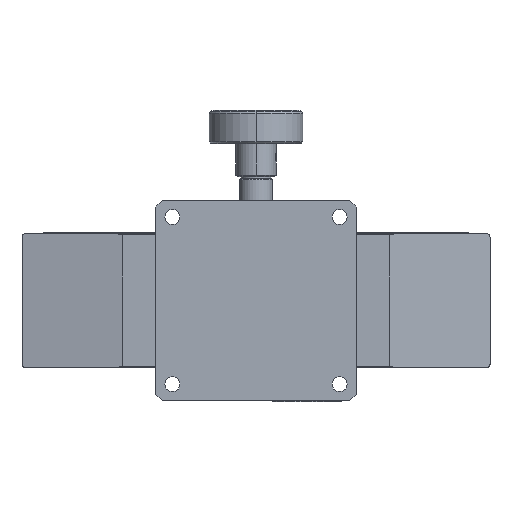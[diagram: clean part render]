
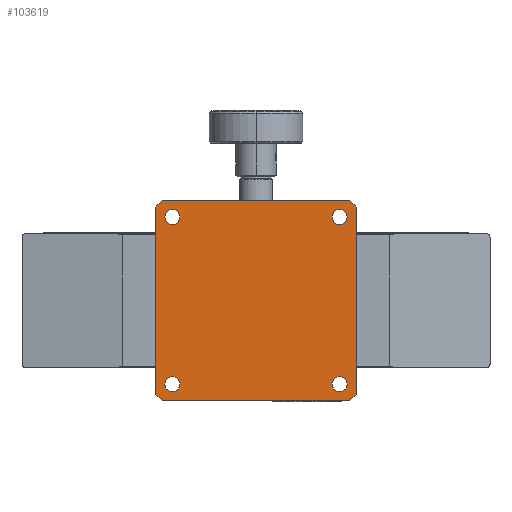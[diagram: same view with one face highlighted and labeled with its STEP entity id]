
A CAD part, front view. The second image highlights one B-rep face of the part: STEP entity #103619.
In plain terms, the highlighted planar face has unit normal (0, -1, 0).
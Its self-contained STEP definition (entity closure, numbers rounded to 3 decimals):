
#1793 = CARTESIAN_POINT ( 'NONE',  ( 25., 0., -25. ) ) ;
#3229 = DIRECTION ( 'NONE',  ( 0., 1., 0. ) ) ;
#3331 = VERTEX_POINT ( 'NONE', #116008 ) ;
#4686 = CARTESIAN_POINT ( 'NONE',  ( -28., 0., 30. ) ) ;
#4880 = CIRCLE ( 'NONE', #121013, 2.25 ) ;
#5868 = DIRECTION ( 'NONE',  ( 1., 0., 0. ) ) ;
#7305 = EDGE_CURVE ( 'NONE', #120697, #127490, #4880, .T. ) ;
#9512 = AXIS2_PLACEMENT_3D ( 'NONE', #80239, #20432, #90218 ) ;
#9862 = DIRECTION ( 'NONE',  ( 1., 0., 0. ) ) ;
#9890 = DIRECTION ( 'NONE',  ( 0., 1., 0. ) ) ;
#9987 = CARTESIAN_POINT ( 'NONE',  ( 25., 0., -25. ) ) ;
#10244 = FACE_BOUND ( 'NONE', #29146, .T. ) ;
#10717 = CARTESIAN_POINT ( 'NONE',  ( -29., 0., 29. ) ) ;
#11239 = ORIENTED_EDGE ( 'NONE', *, *, #55968, .T. ) ;
#11756 = DIRECTION ( 'NONE',  ( 1., 0., 0. ) ) ;
#12779 = LINE ( 'NONE', #10717, #62686 ) ;
#13402 = ORIENTED_EDGE ( 'NONE', *, *, #66285, .T. ) ;
#15673 = EDGE_CURVE ( 'NONE', #41049, #99760, #107922, .T. ) ;
#17608 = DIRECTION ( 'NONE',  ( 1., 0., 0. ) ) ;
#18826 = CARTESIAN_POINT ( 'NONE',  ( 30., 0., 28. ) ) ;
#19391 = CARTESIAN_POINT ( 'NONE',  ( -22.75, 0., -25. ) ) ;
#19603 = ORIENTED_EDGE ( 'NONE', *, *, #121390, .T. ) ;
#20186 = LINE ( 'NONE', #41942, #96697 ) ;
#20417 = DIRECTION ( 'NONE',  ( 0., 0., 1. ) ) ;
#20432 = DIRECTION ( 'NONE',  ( 0., 1., 0. ) ) ;
#20670 = DIRECTION ( 'NONE',  ( -0.707, 0., -0.707 ) ) ;
#23021 = CARTESIAN_POINT ( 'NONE',  ( -27.25, 0., 25. ) ) ;
#24061 = CIRCLE ( 'NONE', #116651, 2.25 ) ;
#24385 = CARTESIAN_POINT ( 'NONE',  ( 27.25, 0., -25. ) ) ;
#24410 = CIRCLE ( 'NONE', #41675, 2.25 ) ;
#24516 = EDGE_LOOP ( 'NONE', ( #40806, #11239, #85222, #58686, #75996, #122766, #47318, #67796 ) ) ;
#25113 = EDGE_LOOP ( 'NONE', ( #98017, #128564 ) ) ;
#25323 = CARTESIAN_POINT ( 'NONE',  ( 30., 0., -30. ) ) ;
#27420 = VERTEX_POINT ( 'NONE', #63055 ) ;
#28352 = VECTOR ( 'NONE', #20417, 1000. ) ;
#28378 = PLANE ( 'NONE',  #96031 ) ;
#29146 = EDGE_LOOP ( 'NONE', ( #105641, #44778 ) ) ;
#30600 = VERTEX_POINT ( 'NONE', #124438 ) ;
#31271 = LINE ( 'NONE', #87209, #107758 ) ;
#33028 = CARTESIAN_POINT ( 'NONE',  ( -25., 0., -25. ) ) ;
#33273 = CARTESIAN_POINT ( 'NONE',  ( 25., 0., 25. ) ) ;
#34469 = AXIS2_PLACEMENT_3D ( 'NONE', #62883, #3229, #72926 ) ;
#39787 = AXIS2_PLACEMENT_3D ( 'NONE', #125203, #65509, #5868 ) ;
#40216 = CARTESIAN_POINT ( 'NONE',  ( -25., 0., 25. ) ) ;
#40441 = LINE ( 'NONE', #113936, #99800 ) ;
#40806 = ORIENTED_EDGE ( 'NONE', *, *, #68318, .F. ) ;
#41049 = VERTEX_POINT ( 'NONE', #97242 ) ;
#41675 = AXIS2_PLACEMENT_3D ( 'NONE', #40216, #110057, #50219 ) ;
#41942 = CARTESIAN_POINT ( 'NONE',  ( -1., 0., 59. ) ) ;
#42401 = DIRECTION ( 'NONE',  ( 0.707, 0., 0.707 ) ) ;
#43039 = DIRECTION ( 'NONE',  ( 1., 0., 0. ) ) ;
#43186 = EDGE_LOOP ( 'NONE', ( #19603, #13402 ) ) ;
#43298 = DIRECTION ( 'NONE',  ( 1., 0., 0. ) ) ;
#44778 = ORIENTED_EDGE ( 'NONE', *, *, #98889, .T. ) ;
#45959 = ORIENTED_EDGE ( 'NONE', *, *, #60038, .T. ) ;
#47318 = ORIENTED_EDGE ( 'NONE', *, *, #114681, .F. ) ;
#48412 = DIRECTION ( 'NONE',  ( 0., -1., 0. ) ) ;
#50219 = DIRECTION ( 'NONE',  ( 1., 0., 0. ) ) ;
#53665 = AXIS2_PLACEMENT_3D ( 'NONE', #33273, #103065, #43298 ) ;
#55454 = CIRCLE ( 'NONE', #34469, 2.25 ) ;
#55968 = EDGE_CURVE ( 'NONE', #115354, #118128, #12779, .T. ) ;
#58168 = EDGE_CURVE ( 'NONE', #3331, #27420, #68676, .T. ) ;
#58686 = ORIENTED_EDGE ( 'NONE', *, *, #15673, .T. ) ;
#60038 = EDGE_CURVE ( 'NONE', #94843, #60269, #91733, .T. ) ;
#60269 = VERTEX_POINT ( 'NONE', #125378 ) ;
#62686 = VECTOR ( 'NONE', #20670, 1000. ) ;
#62883 = CARTESIAN_POINT ( 'NONE',  ( -25., 0., -25. ) ) ;
#63055 = CARTESIAN_POINT ( 'NONE',  ( 22.75, 0., 25. ) ) ;
#63352 = AXIS2_PLACEMENT_3D ( 'NONE', #33028, #102823, #43039 ) ;
#63975 = EDGE_CURVE ( 'NONE', #27420, #3331, #120610, .T. ) ;
#65509 = DIRECTION ( 'NONE',  ( 0., 1., 0. ) ) ;
#65879 = CARTESIAN_POINT ( 'NONE',  ( -28., 0., -30. ) ) ;
#66285 = EDGE_CURVE ( 'NONE', #101849, #99921, #100348, .T. ) ;
#67614 = VERTEX_POINT ( 'NONE', #74563 ) ;
#67796 = ORIENTED_EDGE ( 'NONE', *, *, #108151, .T. ) ;
#67994 = CARTESIAN_POINT ( 'NONE',  ( -22.75, 0., 25. ) ) ;
#68318 = EDGE_CURVE ( 'NONE', #115354, #30600, #126444, .T. ) ;
#68676 = CIRCLE ( 'NONE', #39787, 2.25 ) ;
#71465 = DIRECTION ( 'NONE',  ( 0., 1., 0. ) ) ;
#72668 = FACE_BOUND ( 'NONE', #43186, .T. ) ;
#72926 = DIRECTION ( 'NONE',  ( 1., 0., 0. ) ) ;
#74563 = CARTESIAN_POINT ( 'NONE',  ( 30., 0., -28. ) ) ;
#75996 = ORIENTED_EDGE ( 'NONE', *, *, #106089, .F. ) ;
#76805 = EDGE_LOOP ( 'NONE', ( #45959, #111984 ) ) ;
#79688 = VERTEX_POINT ( 'NONE', #18826 ) ;
#80239 = CARTESIAN_POINT ( 'NONE',  ( -25., 0., 25. ) ) ;
#84612 = LINE ( 'NONE', #100262, #28352 ) ;
#85222 = ORIENTED_EDGE ( 'NONE', *, *, #91268, .F. ) ;
#86644 = FACE_OUTER_BOUND ( 'NONE', #24516, .T. ) ;
#86692 = DIRECTION ( 'NONE',  ( 0.707, 0., -0.707 ) ) ;
#86716 = CARTESIAN_POINT ( 'NONE',  ( -59., 0., 1. ) ) ;
#87209 = CARTESIAN_POINT ( 'NONE',  ( 30., 0., 30. ) ) ;
#87614 = VECTOR ( 'NONE', #86692, 1000. ) ;
#90218 = DIRECTION ( 'NONE',  ( 1., 0., 0. ) ) ;
#91268 = EDGE_CURVE ( 'NONE', #41049, #118128, #84612, .T. ) ;
#91733 = CIRCLE ( 'NONE', #63352, 2.25 ) ;
#94843 = VERTEX_POINT ( 'NONE', #19391 ) ;
#96031 = AXIS2_PLACEMENT_3D ( 'NONE', #98163, #48412, #118205 ) ;
#96697 = VECTOR ( 'NONE', #111791, 1000. ) ;
#97242 = CARTESIAN_POINT ( 'NONE',  ( -30., 0., -28. ) ) ;
#97245 = DIRECTION ( 'NONE',  ( 0., 0., -1. ) ) ;
#97407 = CARTESIAN_POINT ( 'NONE',  ( 30., 0., 30. ) ) ;
#98017 = ORIENTED_EDGE ( 'NONE', *, *, #58168, .T. ) ;
#98163 = CARTESIAN_POINT ( 'NONE',  ( -30., 0., 30. ) ) ;
#98889 = EDGE_CURVE ( 'NONE', #127490, #120697, #24061, .T. ) ;
#99760 = VERTEX_POINT ( 'NONE', #65879 ) ;
#99800 = VECTOR ( 'NONE', #42401, 1000. ) ;
#99921 = VERTEX_POINT ( 'NONE', #67994 ) ;
#99986 = VECTOR ( 'NONE', #17608, 1000. ) ;
#100262 = CARTESIAN_POINT ( 'NONE',  ( -30., 0., 30. ) ) ;
#100348 = CIRCLE ( 'NONE', #9512, 2.25 ) ;
#101822 = VECTOR ( 'NONE', #123851, 1000. ) ;
#101849 = VERTEX_POINT ( 'NONE', #23021 ) ;
#102823 = DIRECTION ( 'NONE',  ( 0., 1., 0. ) ) ;
#103065 = DIRECTION ( 'NONE',  ( 0., 1., 0. ) ) ;
#103619 = ADVANCED_FACE ( 'NONE', ( #113227, #72668, #116308, #10244, #86644 ), #28378, .T. ) ;
#105641 = ORIENTED_EDGE ( 'NONE', *, *, #7305, .T. ) ;
#106089 = EDGE_CURVE ( 'NONE', #122745, #99760, #122029, .T. ) ;
#107758 = VECTOR ( 'NONE', #97245, 1000. ) ;
#107922 = LINE ( 'NONE', #86716, #87614 ) ;
#108151 = EDGE_CURVE ( 'NONE', #79688, #30600, #20186, .T. ) ;
#108228 = EDGE_CURVE ( 'NONE', #122745, #67614, #40441, .T. ) ;
#109569 = EDGE_CURVE ( 'NONE', #60269, #94843, #55454, .T. ) ;
#110057 = DIRECTION ( 'NONE',  ( 0., 1., 0. ) ) ;
#111791 = DIRECTION ( 'NONE',  ( -0.707, 0., 0.707 ) ) ;
#111984 = ORIENTED_EDGE ( 'NONE', *, *, #109569, .T. ) ;
#113227 = FACE_BOUND ( 'NONE', #25113, .T. ) ;
#113936 = CARTESIAN_POINT ( 'NONE',  ( 29., 0., -29. ) ) ;
#114646 = CARTESIAN_POINT ( 'NONE',  ( -30., 0., 28. ) ) ;
#114681 = EDGE_CURVE ( 'NONE', #79688, #67614, #31271, .T. ) ;
#115354 = VERTEX_POINT ( 'NONE', #4686 ) ;
#116008 = CARTESIAN_POINT ( 'NONE',  ( 27.25, 0., 25. ) ) ;
#116308 = FACE_BOUND ( 'NONE', #76805, .T. ) ;
#116651 = AXIS2_PLACEMENT_3D ( 'NONE', #1793, #71465, #11756 ) ;
#118128 = VERTEX_POINT ( 'NONE', #114646 ) ;
#118134 = CARTESIAN_POINT ( 'NONE',  ( 28., 0., -30. ) ) ;
#118205 = DIRECTION ( 'NONE',  ( -1., 0., 0. ) ) ;
#120610 = CIRCLE ( 'NONE', #53665, 2.25 ) ;
#120697 = VERTEX_POINT ( 'NONE', #24385 ) ;
#121013 = AXIS2_PLACEMENT_3D ( 'NONE', #9987, #9890, #9862 ) ;
#121390 = EDGE_CURVE ( 'NONE', #99921, #101849, #24410, .T. ) ;
#122029 = LINE ( 'NONE', #25323, #101822 ) ;
#122745 = VERTEX_POINT ( 'NONE', #118134 ) ;
#122766 = ORIENTED_EDGE ( 'NONE', *, *, #108228, .T. ) ;
#123851 = DIRECTION ( 'NONE',  ( -1., 0., 0. ) ) ;
#124438 = CARTESIAN_POINT ( 'NONE',  ( 28., 0., 30. ) ) ;
#125203 = CARTESIAN_POINT ( 'NONE',  ( 25., 0., 25. ) ) ;
#125378 = CARTESIAN_POINT ( 'NONE',  ( -27.25, 0., -25. ) ) ;
#126444 = LINE ( 'NONE', #97407, #99986 ) ;
#126451 = CARTESIAN_POINT ( 'NONE',  ( 22.75, 0., -25. ) ) ;
#127490 = VERTEX_POINT ( 'NONE', #126451 ) ;
#128564 = ORIENTED_EDGE ( 'NONE', *, *, #63975, .T. ) ;
